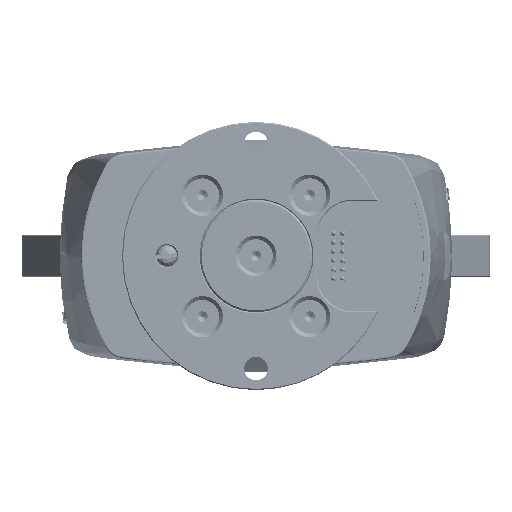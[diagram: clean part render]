
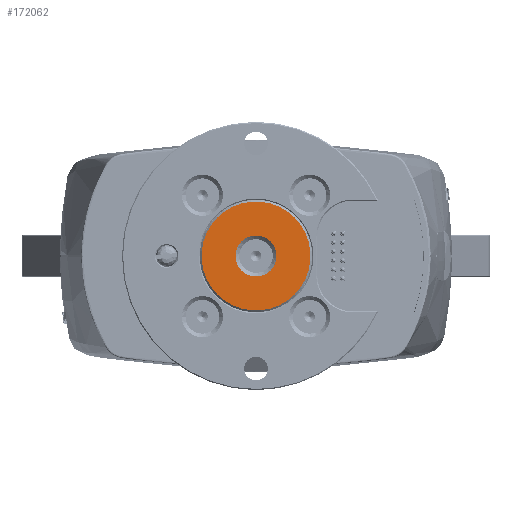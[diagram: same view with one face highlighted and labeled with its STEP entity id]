
A CAD part, front view. The second image highlights one B-rep face of the part: STEP entity #172062.
In plain terms, the highlighted planar face has unit normal (0, -1, 0).
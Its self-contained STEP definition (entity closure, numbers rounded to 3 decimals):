
#362 = EDGE_CURVE ( 'NONE', #80608, #209194, #9262, .T. ) ;
#1764 = FACE_OUTER_BOUND ( 'NONE', #66625, .T. ) ;
#9262 = CIRCLE ( 'NONE', #135958, 15.25 ) ;
#9525 = EDGE_LOOP ( 'NONE', ( #84065, #127060 ) ) ;
#16205 = DIRECTION ( 'NONE',  ( 0.422, 0., 0.907 ) ) ;
#22152 = EDGE_CURVE ( 'NONE', #169908, #61294, #195693, .T. ) ;
#27076 = ORIENTED_EDGE ( 'NONE', *, *, #362, .T. ) ;
#29053 = CARTESIAN_POINT ( 'NONE',  ( 0., -46.498, 0. ) ) ;
#32645 = EDGE_CURVE ( 'NONE', #209194, #80608, #210697, .T. ) ;
#49662 = CARTESIAN_POINT ( 'NONE',  ( -5.214, -46.498, 2.424 ) ) ;
#50159 = CARTESIAN_POINT ( 'NONE',  ( 0., -46.498, 0. ) ) ;
#61294 = VERTEX_POINT ( 'NONE', #177936 ) ;
#66625 = EDGE_LOOP ( 'NONE', ( #27076, #152656 ) ) ;
#76371 = AXIS2_PLACEMENT_3D ( 'NONE', #149202, #116451, #80301 ) ;
#80269 = AXIS2_PLACEMENT_3D ( 'NONE', #175916, #87221, #140981 ) ;
#80301 = DIRECTION ( 'NONE',  ( 0.907, 0., -0.422 ) ) ;
#80608 = VERTEX_POINT ( 'NONE', #88406 ) ;
#84065 = ORIENTED_EDGE ( 'NONE', *, *, #193237, .T. ) ;
#87221 = DIRECTION ( 'NONE',  ( 0., 1., 0. ) ) ;
#88406 = CARTESIAN_POINT ( 'NONE',  ( 6.429, -46.498, 13.829 ) ) ;
#100768 = DIRECTION ( 'NONE',  ( 0., -1., 0. ) ) ;
#112561 = FACE_BOUND ( 'NONE', #9525, .T. ) ;
#113946 = AXIS2_PLACEMENT_3D ( 'NONE', #50159, #176079, #16205 ) ;
#116451 = DIRECTION ( 'NONE',  ( 0., 1., 0. ) ) ;
#124876 = CIRCLE ( 'NONE', #76371, 5.75 ) ;
#127060 = ORIENTED_EDGE ( 'NONE', *, *, #22152, .T. ) ;
#135958 = AXIS2_PLACEMENT_3D ( 'NONE', #29053, #204155, #223996 ) ;
#140981 = DIRECTION ( 'NONE',  ( 0.907, 0., -0.422 ) ) ;
#149202 = CARTESIAN_POINT ( 'NONE',  ( 0., -46.498, 0. ) ) ;
#152656 = ORIENTED_EDGE ( 'NONE', *, *, #32645, .T. ) ;
#153344 = DIRECTION ( 'NONE',  ( 0.907, 0., -0.422 ) ) ;
#160846 = AXIS2_PLACEMENT_3D ( 'NONE', #184878, #100768, #153344 ) ;
#169908 = VERTEX_POINT ( 'NONE', #49662 ) ;
#172062 = ADVANCED_FACE ( 'NONE', ( #112561, #1764 ), #214157, .T. ) ;
#175714 = CARTESIAN_POINT ( 'NONE',  ( -6.429, -46.498, -13.829 ) ) ;
#175916 = CARTESIAN_POINT ( 'NONE',  ( 0., -46.498, 0. ) ) ;
#176079 = DIRECTION ( 'NONE',  ( 0., -1., 0. ) ) ;
#177936 = CARTESIAN_POINT ( 'NONE',  ( 5.214, -46.498, -2.424 ) ) ;
#184878 = CARTESIAN_POINT ( 'NONE',  ( 0., -46.498, 0. ) ) ;
#193237 = EDGE_CURVE ( 'NONE', #61294, #169908, #124876, .T. ) ;
#195693 = CIRCLE ( 'NONE', #80269, 5.75 ) ;
#204155 = DIRECTION ( 'NONE',  ( 0., -1., 0. ) ) ;
#209194 = VERTEX_POINT ( 'NONE', #175714 ) ;
#210697 = CIRCLE ( 'NONE', #113946, 15.25 ) ;
#214157 = PLANE ( 'NONE',  #160846 ) ;
#223996 = DIRECTION ( 'NONE',  ( 0.422, 0., 0.907 ) ) ;
